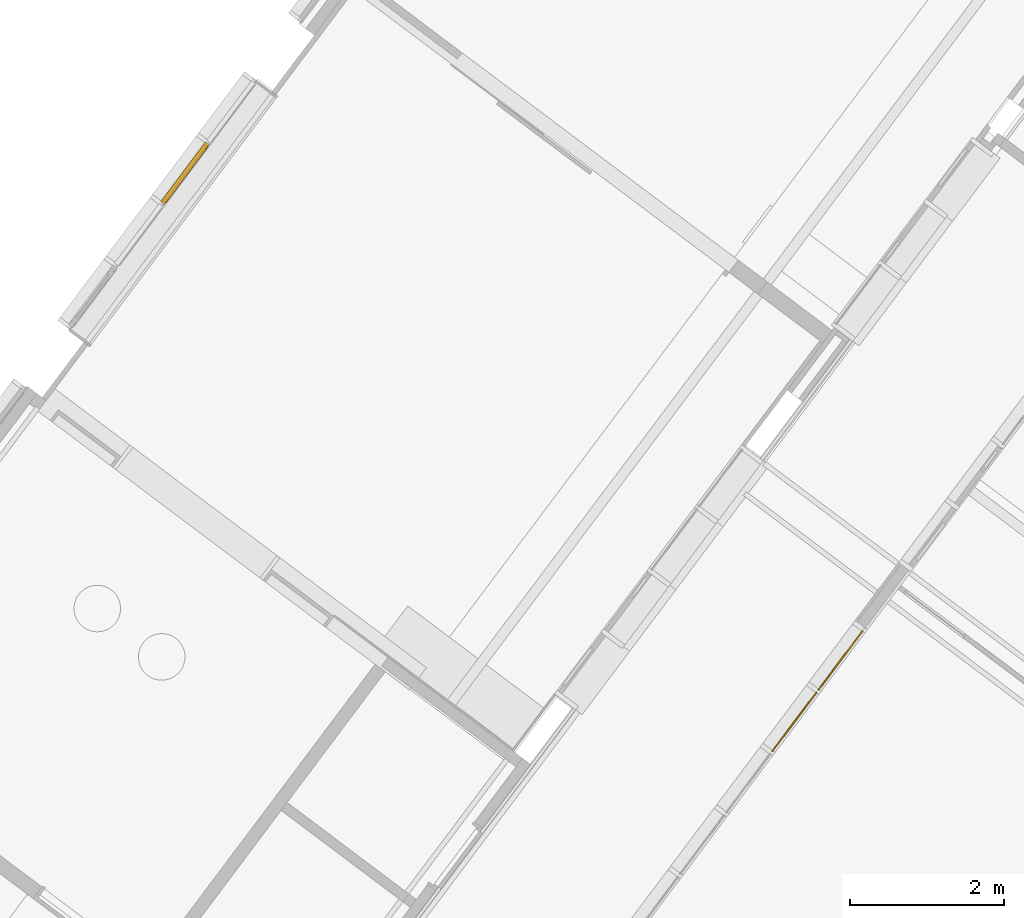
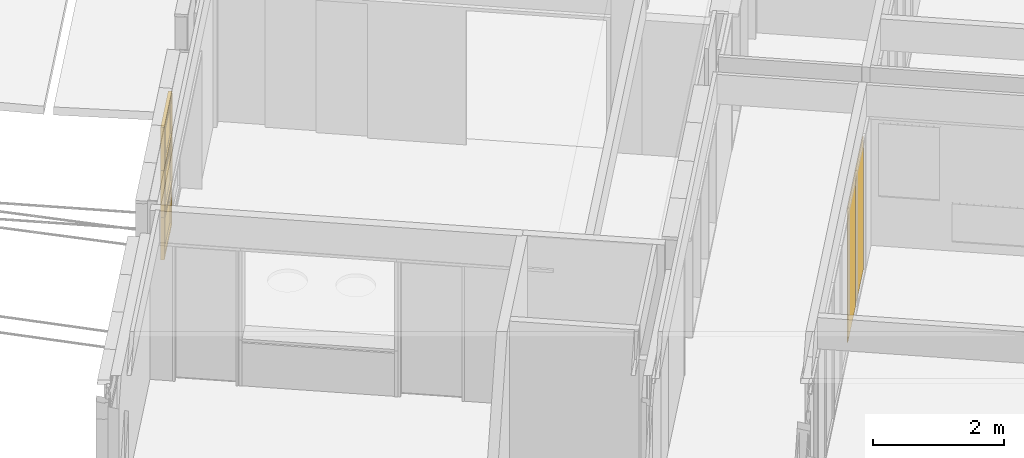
# One storey, part 168 of 243: 5 windows, 2 elements without a shape of their own.
"""IFC2X3 building model written with IfcOpenShell, lengths in metres."""

import ifcopenshell
import ifcopenshell.guid

model = None  # the IFC model being written
_history = None  # IfcOwnerHistory: only IFC2X3 demands one
_inside = {}  # id of a spatial element -> (the spatial element, [elements in it])
_under = {}  # id of a project, library or spatial element -> (it, [spatial elements below it])
_declared = {}  # id of a project -> (the project, [libraries it declares])
_typed = {}  # id of a type object -> (the type object, [elements of that type])
_made_of = {}  # id of a material, layer set ... -> (it, [elements and type objects made of it])


def new_model(schema):
    """Start an empty IFC model of exactly this schema.

    Asked for "IFC4X3", IfcOpenShell would pick the latest addendum, in which some entities
    have other attributes; the version numbers below select the first issue.
    IFC2X3 requires an IfcOwnerHistory on every rooted entity: one is made here for all.
    """
    global model, _history
    if schema == "IFC4X3":
        model = ifcopenshell.file(schema_version=(4, 3, 0, 0))
    else:
        model = ifcopenshell.file(schema=schema)
    _inside.clear()
    _under.clear()
    _declared.clear()
    _typed.clear()
    _made_of.clear()
    _history = None
    if model.schema == "IFC2X3":
        org = make("IfcOrganization", Name="unknown")
        user = make(
            "IfcPersonAndOrganization",
            ThePerson=make("IfcPerson", FamilyName="unknown"),
            TheOrganization=org,
        )
        app = make(
            "IfcApplication",
            ApplicationDeveloper=org,
            Version="unknown",
            ApplicationFullName="unknown",
            ApplicationIdentifier="unknown",
        )
        _history = make(
            "IfcOwnerHistory",
            OwningUser=user,
            OwningApplication=app,
            ChangeAction="ADDED",
            CreationDate=0,
        )
    return model


def make(cls, **values):
    """One entity of the class cls with the attributes given. An attribute that is None is left unset."""
    return model.create_entity(
        cls, **{name: value for name, value in values.items() if value is not None}
    )


def entity(cls, *values):
    """Any entity or typed value of the class cls, its attributes in the order of the schema. None: left unset."""
    e = model.create_entity(cls)
    for i, value in enumerate(values):
        if value is not None:
            e[i] = value
    return e


def rooted(cls, **values):
    """An entity with a GlobalId (a new one), such as an element, a storey or a relation."""
    return make(cls, GlobalId=ifcopenshell.guid.new(), OwnerHistory=_history, **values)


def si_unit(unit_type, name, prefix=None):
    """IfcSIUnit, for example si_unit("LENGTHUNIT", "METRE", prefix="MILLI")."""
    return make("IfcSIUnit", UnitType=unit_type, Prefix=prefix, Name=name)


def converted_unit(unit_type, name, factor, base, dimensions=None, offset=None):
    """IfcConversionBasedUnit, such as the inch: factor (a typed value) times the base unit."""
    return make(
        "IfcConversionBasedUnit"
        if offset is None
        else "IfcConversionBasedUnitWithOffset",
        ConversionOffset=offset,
        Dimensions=None
        if dimensions is None
        else entity("IfcDimensionalExponents", *dimensions),
        UnitType=unit_type,
        Name=name,
        ConversionFactor=make(
            "IfcMeasureWithUnit", ValueComponent=factor, UnitComponent=base
        ),
    )


def derived_unit(unit_type, elements):
    """IfcDerivedUnit: a product of units, each with its exponent."""
    return make(
        "IfcDerivedUnit",
        Elements=[
            make("IfcDerivedUnitElement", Unit=unit, Exponent=power)
            for unit, power in elements
        ],
        UnitType=unit_type,
    )


def assignment(units):
    """IfcUnitAssignment: the units of a project."""
    return None if units is None else make("IfcUnitAssignment", Units=units)


def point(xyz):
    """IfcCartesianPoint."""
    return None if xyz is None else make("IfcCartesianPoint", Coordinates=xyz)


def direction(xyz):
    """IfcDirection."""
    return None if xyz is None else make("IfcDirection", DirectionRatios=xyz)


def frame(location, z_axis=None, x_axis=None):
    """IfcAxis2Placement3D, a coordinate frame: its origin and axes. An axis left out is left unset."""
    return make(
        "IfcAxis2Placement3D",
        Location=point(location),
        Axis=direction(z_axis),
        RefDirection=direction(x_axis),
    )


def frame_2d(location, x_axis=None):
    """IfcAxis2Placement2D, a coordinate frame in the plane: its origin and x axis."""
    return make(
        "IfcAxis2Placement2D", Location=point(location), RefDirection=direction(x_axis)
    )


def origin():
    """The frame at (0, 0, 0) with its axes left unset."""
    return frame((0.0, 0.0, 0.0))


def origin_2d_with_axis():
    """The frame at (0, 0) in the plane with the x axis (1, 0) written out."""
    return frame_2d((0.0, 0.0), x_axis=(1.0, 0.0))


def place(relative_to, where):
    """IfcLocalPlacement: puts the frame where relative to a parent placement (None: the world)."""
    return make(
        "IfcLocalPlacement", PlacementRelTo=relative_to, RelativePlacement=where
    )


def context(
    kind, dimensions, precision=None, world=None, true_north=None, identifier=None
):
    """IfcGeometricRepresentationContext, for example the 3D "Model" context."""
    return make(
        "IfcGeometricRepresentationContext",
        ContextIdentifier=identifier,
        ContextType=kind,
        CoordinateSpaceDimension=dimensions,
        Precision=precision,
        WorldCoordinateSystem=world,
        TrueNorth=true_north,
    )


def subcontext(parent, identifier, kind, view, scale=None):
    """IfcGeometricRepresentationSubContext, for example "Body" below "Model"."""
    return make(
        "IfcGeometricRepresentationSubContext",
        ContextIdentifier=identifier,
        ContextType=kind,
        ParentContext=parent,
        TargetScale=scale,
        TargetView=view,
    )


def project(units=None, contexts=None):
    """IfcProject with its units and contexts."""
    return rooted(
        "IfcProject",
        Name="project",
        RepresentationContexts=contexts,
        UnitsInContext=assignment(units),
    )


def spatial(cls, under=None, at=None, **own):
    """A site, building, storey or space (cls), placed at a placement, below another one or the project."""
    s = rooted(cls, ObjectPlacement=at, **own)
    if under is not None:
        _under.setdefault(under.id(), (under, []))[1].append(s)
    return s


def profile(cls, at=None, kind="AREA", **sizes):
    """A parametric profile (cls). Its sizes go by their IFC names, for example OverallWidth=200.0."""
    return make(cls, ProfileType=kind, Position=at, **sizes)


def rectangle(**sizes):
    """IfcRectangleProfileDef."""
    return profile("IfcRectangleProfileDef", **sizes)


def extrude(swept, where, along, depth):
    """IfcExtrudedAreaSolid: the profile swept, set in the frame where, extruded along a direction by depth."""
    return make(
        "IfcExtrudedAreaSolid",
        SweptArea=swept,
        Position=where,
        ExtrudedDirection=direction(along),
        Depth=depth,
    )


def faces_of(points, faces, orient=None, outer=None):
    """IfcFace entities. A face is a list of loops; a loop is a list of indices into points, from 0.

    orient and outer hold one flag for each loop. By default every Orientation is true, the
    first loop of a face is its IfcFaceOuterBound and the others are IfcFaceBound.
    """
    made = []
    for i, loops in enumerate(faces):
        bounds = []
        for j, loop in enumerate(loops):
            is_outer = j == 0 if outer is None else outer[i][j]
            bounds.append(
                make(
                    "IfcFaceOuterBound" if is_outer else "IfcFaceBound",
                    Bound=make("IfcPolyLoop", Polygon=[points[k] for k in loop]),
                    Orientation=True if orient is None else orient[i][j],
                )
            )
        made.append(make("IfcFace", Bounds=bounds))
    return made


def faceted_brep(points, faces, orient=None, outer=None, voids=None):
    """IfcFacetedBrep: a solid bounded by flat faces; with voids (closed shells), ...WithVoids."""
    shared = [point(p) for p in points]
    hull = make("IfcClosedShell", CfsFaces=faces_of(shared, faces, orient, outer))
    if voids is None:
        return make("IfcFacetedBrep", Outer=hull)
    return make(
        "IfcFacetedBrepWithVoids",
        Outer=hull,
        Voids=[
            make(cls, CfsFaces=faces_of(shared, fs, o, b)) for cls, fs, o, b in voids
        ],
    )


def shape(context_of_items, identifier, shape_type, items):
    """IfcShapeRepresentation: the items that make up one representation, for example the "Body"."""
    return make(
        "IfcShapeRepresentation",
        ContextOfItems=context_of_items,
        RepresentationIdentifier=identifier,
        RepresentationType=shape_type,
        Items=items,
    )


def source(mapping_origin, context_of_items, identifier, shape_type, items):
    """IfcRepresentationMap: a shape defined once, which mapped items show again and again."""
    return make(
        "IfcRepresentationMap",
        MappingOrigin=mapping_origin,
        MappedRepresentation=shape(context_of_items, identifier, shape_type, items),
    )


def transform(
    local_origin,
    x_axis=None,
    y_axis=None,
    z_axis=None,
    scale=None,
    scale2=None,
    scale3=None,
    uniform=True,
):
    """IfcCartesianTransformationOperator3D, or its non-uniform kind. x_axis, y_axis, z_axis: its Axis1, 2, 3."""
    if uniform:
        return make(
            "IfcCartesianTransformationOperator3D",
            Axis1=direction(x_axis),
            Axis2=direction(y_axis),
            LocalOrigin=point(local_origin),
            Scale=scale,
            Axis3=direction(z_axis),
        )
    return make(
        "IfcCartesianTransformationOperator3DnonUniform",
        Axis1=direction(x_axis),
        Axis2=direction(y_axis),
        LocalOrigin=point(local_origin),
        Scale=scale,
        Axis3=direction(z_axis),
        Scale2=scale2,
        Scale3=scale3,
    )


def mapped(mapping_source, mapping_target):
    """IfcMappedItem: shows the shape of a source again, moved by a transform."""
    return make(
        "IfcMappedItem", MappingSource=mapping_source, MappingTarget=mapping_target
    )


def material(Name=None, Category=None):
    """IfcMaterial."""
    return make("IfcMaterial", Name=Name, Category=Category)


def material_list(materials):
    """IfcMaterialList."""
    return make("IfcMaterialList", Materials=materials)


def made_of(thing, what):
    """Note that an element or type object is made of a material, layer set ...; save() writes the relation."""
    if what is not None:
        _made_of.setdefault(what.id(), (what, []))[1].append(thing)
    return thing


def type_object(cls, material=None, **own):
    """A type object (cls), such as IfcWallType, which elements share."""
    return made_of(rooted(cls, **own), material)


def type_shapes(of_type, sources):
    """Give a type object the sources (RepresentationMaps) that its elements show as mapped items."""
    of_type.RepresentationMaps = sources


def element(
    cls,
    number,
    at=None,
    inside=None,
    cuts=None,
    type_object=None,
    material=None,
    context=None,
    identifier="Body",
    shape_type=None,
    held_by="IfcProductDefinitionShape",
    body=None,
    shapes=None,
    **own,
):
    """One element of the class cls, such as IfcWall. Its Tag is "e" and its number.

    at: its placement. inside: the storey or other place that contains it. cuts: it is an
    opening in that element (IfcRelVoidsElement). A single representation is given by context,
    identifier, shape_type and body (its items); several are given by shapes. held_by: the class
    of the entity that holds the representations. save() writes the other relations.
    """
    e = rooted(cls, Tag="e%d" % number, ObjectPlacement=at, **own)
    if body is not None:
        shapes = [shape(context, identifier, shape_type, body)]
    if shapes is not None:
        e.Representation = make(held_by, Representations=shapes)
    if inside is not None:
        _inside.setdefault(inside.id(), (inside, []))[1].append(e)
    if cuts is not None:
        rooted(
            "IfcRelVoidsElement", RelatingBuildingElement=cuts, RelatedOpeningElement=e
        )
    if type_object is not None:
        _typed.setdefault(type_object.id(), (type_object, []))[1].append(e)
    return made_of(e, material)


def aggregate(whole, parts):
    """IfcRelAggregates: a whole, such as a stair, and the parts it consists of."""
    return rooted("IfcRelAggregates", RelatingObject=whole, RelatedObjects=parts)


def save(model, path):
    """Write the relations noted so far, then the file.

    IfcRelAggregates (storeys below a building ...), IfcRelContainedInSpatialStructure (elements
    in a storey), IfcRelDefinesByType, IfcRelAssociatesMaterial and IfcRelDeclares: one each for
    every whole, place, type object, material and project.
    """
    for whole, parts in _under.values():
        aggregate(whole, parts)
    for where, things in _inside.values():
        rooted(
            "IfcRelContainedInSpatialStructure",
            RelatedElements=things,
            RelatingStructure=where,
        )
    for kind, things in _typed.values():
        rooted("IfcRelDefinesByType", RelatedObjects=things, RelatingType=kind)
    for what, things in _made_of.values():
        rooted("IfcRelAssociatesMaterial", RelatedObjects=things, RelatingMaterial=what)
    for by, libraries in _declared.values():
        rooted("IfcRelDeclares", RelatingContext=by, RelatedDefinitions=libraries)
    model.write(path)


model = new_model("IFC2X3")

# Units and contexts
model_context = context("Model", 3, precision=1e-05, world=origin(), true_north=direction((6.123031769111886e-17, 1.0)))
body_context = subcontext(model_context, "Body", "Model", "MODEL_VIEW")
ifc_project = project(units=[si_unit("LENGTHUNIT", "METRE"), si_unit("AREAUNIT", "SQUARE_METRE"), si_unit("VOLUMEUNIT", "CUBIC_METRE"), converted_unit("PLANEANGLEUNIT", "DEGREE", entity("IfcRatioMeasure", 0.017453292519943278), si_unit("PLANEANGLEUNIT", "RADIAN"), dimensions=[0, 0, 0, 0, 0, 0, 0]), si_unit("MASSUNIT", "GRAM", prefix="KILO"), derived_unit("MASSDENSITYUNIT", [(si_unit("MASSUNIT", "GRAM", prefix="KILO"), 1), (si_unit("LENGTHUNIT", "METRE"), -3)]), derived_unit("IONCONCENTRATIONUNIT", [(si_unit("MASSUNIT", "GRAM", prefix="KILO"), 1), (si_unit("LENGTHUNIT", "METRE"), -3)]), derived_unit("MOMENTOFINERTIAUNIT", [(si_unit("LENGTHUNIT", "METRE"), 4)]), si_unit("TIMEUNIT", "SECOND"), si_unit("FREQUENCYUNIT", "HERTZ"), si_unit("THERMODYNAMICTEMPERATUREUNIT", "DEGREE_CELSIUS"), derived_unit("THERMALTRANSMITTANCEUNIT", [(si_unit("MASSUNIT", "GRAM", prefix="KILO"), 1), (si_unit("THERMODYNAMICTEMPERATUREUNIT", "KELVIN"), -1), (si_unit("TIMEUNIT", "SECOND"), -3)]), derived_unit("THERMALCONDUCTANCEUNIT", [(si_unit("MASSUNIT", "GRAM", prefix="KILO"), 1), (si_unit("THERMODYNAMICTEMPERATUREUNIT", "KELVIN"), -1), (si_unit("TIMEUNIT", "SECOND"), -3), (si_unit("LENGTHUNIT", "METRE"), 1)]), derived_unit("VOLUMETRICFLOWRATEUNIT", [(si_unit("LENGTHUNIT", "METRE"), 3), (si_unit("TIMEUNIT", "SECOND"), -1)]), derived_unit("MASSFLOWRATEUNIT", [(si_unit("MASSUNIT", "GRAM", prefix="KILO"), 1), (si_unit("TIMEUNIT", "SECOND"), -1)]), derived_unit("ROTATIONALFREQUENCYUNIT", [(si_unit("TIMEUNIT", "SECOND"), -1)]), si_unit("ELECTRICCURRENTUNIT", "AMPERE"), si_unit("ELECTRICVOLTAGEUNIT", "VOLT"), si_unit("POWERUNIT", "WATT"), si_unit("FORCEUNIT", "NEWTON", prefix="KILO"), si_unit("ILLUMINANCEUNIT", "LUX"), si_unit("LUMINOUSFLUXUNIT", "LUMEN"), si_unit("LUMINOUSINTENSITYUNIT", "CANDELA"), derived_unit("USERDEFINED", [(si_unit("MASSUNIT", "GRAM", prefix="KILO"), -1), (si_unit("LENGTHUNIT", "METRE"), -2), (si_unit("TIMEUNIT", "SECOND"), 3), (si_unit("LUMINOUSFLUXUNIT", "LUMEN"), 1)]), derived_unit("USERDEFINED", [(si_unit("MASSUNIT", "GRAM", prefix="KILO"), 1), (si_unit("TIMEUNIT", "SECOND"), -3), (si_unit("LENGTHUNIT", "METRE"), 3), (si_unit("ELECTRICCURRENTUNIT", "AMPERE"), -2)]), derived_unit("SOUNDPOWERUNIT", [(si_unit("MASSUNIT", "GRAM", prefix="KILO"), 1), (si_unit("TIMEUNIT", "SECOND"), -3), (si_unit("LENGTHUNIT", "METRE"), 2)]), derived_unit("SOUNDPRESSUREUNIT", [(si_unit("MASSUNIT", "GRAM", prefix="KILO"), 1), (si_unit("LENGTHUNIT", "METRE"), -1), (si_unit("TIMEUNIT", "SECOND"), -2)]), derived_unit("LINEARVELOCITYUNIT", [(si_unit("LENGTHUNIT", "METRE"), 1), (si_unit("TIMEUNIT", "SECOND"), -1)]), si_unit("PRESSUREUNIT", "PASCAL"), derived_unit("USERDEFINED", [(si_unit("MASSUNIT", "GRAM", prefix="KILO"), 1), (si_unit("LENGTHUNIT", "METRE"), -2), (si_unit("TIMEUNIT", "SECOND"), -2)]), derived_unit("LINEARFORCEUNIT", [(si_unit("MASSUNIT", "GRAM", prefix="KILO"), 1), (si_unit("TIMEUNIT", "SECOND"), -2)]), derived_unit("PLANARFORCEUNIT", [(si_unit("MASSUNIT", "GRAM", prefix="KILO"), 1), (si_unit("LENGTHUNIT", "METRE"), -1), (si_unit("TIMEUNIT", "SECOND"), -2)]), derived_unit("SPECIFICHEATCAPACITYUNIT", [(si_unit("THERMODYNAMICTEMPERATUREUNIT", "KELVIN"), -1), (si_unit("LENGTHUNIT", "METRE"), 2), (si_unit("TIMEUNIT", "SECOND"), -2)]), derived_unit("HEATINGVALUEUNIT", [(si_unit("LENGTHUNIT", "METRE"), 2), (si_unit("TIMEUNIT", "SECOND"), -2)]), derived_unit("VAPORPERMEABILITYUNIT", [(si_unit("LENGTHUNIT", "METRE"), -1), (si_unit("TIMEUNIT", "SECOND"), 1)]), derived_unit("DYNAMICVISCOSITYUNIT", [(si_unit("MASSUNIT", "GRAM", prefix="KILO"), 1), (si_unit("TIMEUNIT", "SECOND"), -1), (si_unit("LENGTHUNIT", "METRE"), -1)]), derived_unit("THERMALEXPANSIONCOEFFICIENTUNIT", [(si_unit("THERMODYNAMICTEMPERATUREUNIT", "KELVIN"), -1)]), derived_unit("MODULUSOFELASTICITYUNIT", [(si_unit("MASSUNIT", "GRAM", prefix="KILO"), 1), (si_unit("LENGTHUNIT", "METRE"), -1), (si_unit("TIMEUNIT", "SECOND"), -2)]), derived_unit("ISOTHERMALMOISTURECAPACITYUNIT", [(si_unit("LENGTHUNIT", "METRE"), 3), (si_unit("MASSUNIT", "GRAM", prefix="KILO"), -1)]), derived_unit("MOISTUREDIFFUSIVITYUNIT", [(si_unit("TIMEUNIT", "SECOND"), -1), (si_unit("LENGTHUNIT", "METRE"), 2)])], contexts=[model_context])

# Site, building, storey
site_placement = place(None, frame((0.0, 0.0, 235.0), z_axis=(0.0, 0.0, 1.0), x_axis=(-0.7996477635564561, 0.6004693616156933, 0.0)))
site = spatial("IfcSite", under=ifc_project, at=site_placement, Name="Default", CompositionType="ELEMENT")
building_placement = place(site_placement, origin())
building = spatial("IfcBuilding", under=site, at=building_placement, CompositionType="ELEMENT")
storey_placement = place(building_placement, origin())
storey = spatial("IfcBuildingStorey", under=building, at=storey_placement, Name="P0- Escola", CompositionType="ELEMENT", Elevation=0.0)

# Curtain wall, windows
curtain_wall_type_1 = type_object("IfcCurtainWallType", Name="Muro cortina:MC- INT- a3", PredefinedType="NOTDEFINED")
curtain_wall_1_placement = place(storey_placement, origin())
curtain_wall_1 = element("IfcCurtainWall", 1, at=curtain_wall_1_placement, inside=storey, type_object=curtain_wall_type_1, Name="Muro cortina:MC- INT- a3", ObjectType="Muro cortina:MC- INT- a3")
ifc_material_1 = material(Name="_Vidre")
window_style_1 = type_object("IfcWindowStyle", Name="MC- Fusta- vidre fix:MC- Fusta- vidre fix", ConstructionType="NOTDEFINED", OperationType="NOTDEFINED", ParameterTakesPrecedence=False, Sizeable=False, material=ifc_material_1)
shared_shape_1 = source(origin(), body_context, "Body", "SweptSolid", [
    extrude(rectangle(XDim=0.015999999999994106, YDim=0.9699999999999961, at=origin_2d_with_axis()), frame((0.0, 0.0, 0.0), z_axis=(0.0, 0.0, 1.0), x_axis=(0.0, -1.0, 0.0)), (0.0, 0.0, 1.0), 2.475),
])
type_shapes(window_style_1, [shared_shape_1])
window_1_placement = place(curtain_wall_1_placement, frame((13.279147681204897, -32.97019175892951, 0.045000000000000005), z_axis=(0.0, 0.0, 1.0), x_axis=(0.0, -1.0, 0.0)))
window_1 = element("IfcWindow", 2, at=window_1_placement, type_object=window_style_1, material=ifc_material_1, Name="MC- Fusta- vidre fix:MC- Fusta- vidre fix", ObjectType="MC- Fusta- vidre fix:MC- Fusta- vidre fix", OverallHeight=2.475, OverallWidth=0.9699999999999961, context=body_context, shape_type="MappedRepresentation", body=[
    mapped(shared_shape_1, transform((0.0, 0.0, 0.0), scale=1.0)),
])
window_2_placement = place(curtain_wall_1_placement, frame((13.279147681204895, -31.970191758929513, 0.045000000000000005), z_axis=(0.0, 0.0, 1.0), x_axis=(0.0, -1.0, 0.0)))
window_2 = element("IfcWindow", 3, at=window_2_placement, type_object=window_style_1, material=ifc_material_1, Name="MC- Fusta- vidre fix:MC- Fusta- vidre fix", ObjectType="MC- Fusta- vidre fix:MC- Fusta- vidre fix", OverallHeight=2.475, OverallWidth=0.9699999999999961, context=body_context, shape_type="MappedRepresentation", body=[
    mapped(shared_shape_1, transform((0.0, 0.0, 0.0), scale=1.0)),
])
aggregate(curtain_wall_1, [window_1, window_2])

curtain_wall_type_2 = type_object("IfcCurtainWallType", Name="Muro cortina:MC- EXT- MC2", PredefinedType="NOTDEFINED")
curtain_wall_2_placement = place(storey_placement, origin())
curtain_wall_2 = element("IfcCurtainWall", 4, at=curtain_wall_2_placement, inside=storey, type_object=curtain_wall_type_2, Name="Muro cortina:MC- EXT- MC2", ObjectType="Muro cortina:MC- EXT- MC2")
ifc_material_2 = material(Name="_Alumini- T1- Perfil")
ifc_material_list = material_list([ifc_material_1, ifc_material_2])
window_style_2 = type_object("IfcWindowStyle", Name="MC- Alu- Conjunt vidre fix- 62x60 cm:MC- Alu- Conjunt vidre fix- 62x60 cm", ConstructionType="NOTDEFINED", OperationType="NOTDEFINED", ParameterTakesPrecedence=False, Sizeable=False, material=ifc_material_list)
shared_shape_2 = source(origin(), body_context, "Body", "Brep", [
    faceted_brep([(-0.43619328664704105, -0.007600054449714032, 0.048806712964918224), (0.43619328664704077, -0.007600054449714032, 0.048806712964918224), (0.43619328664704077, -0.03160022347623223, 0.048806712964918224), (-0.43619328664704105, -0.03160022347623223, 0.048806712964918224), (-0.43619328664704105, -0.007600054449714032, 0.7387000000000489), (0.43619328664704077, -0.007600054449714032, 0.7387000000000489), (0.43619328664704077, -0.03160022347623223, 0.7387000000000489), (-0.43619328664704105, -0.03160022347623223, 0.7387000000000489)], [[[0, 1, 2, 3]], [[4, 5, 1, 0]], [[5, 6, 2, 1]], [[6, 7, 3, 2]], [[7, 4, 0, 3]], [[4, 7, 6, 5]]]),
    faceted_brep([(-0.4849999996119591, -0.05999999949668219, 0.7877000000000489), (-0.4849999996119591, 0.0, 0.7877000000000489), (-0.4849999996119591, 0.0, 0.0), (-0.4849999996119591, -0.05999999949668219, 0.0), (-0.422193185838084, 0.0, 0.7248931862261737), (-0.4221931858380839, 0.0, 0.06280681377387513), (0.42219318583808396, 0.0, 0.06280681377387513), (0.42219318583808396, 0.0, 0.7248931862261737), (0.4849999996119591, 0.0, 0.7877000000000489), (0.4849999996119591, 0.0, 0.0), (0.4849999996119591, -0.05999999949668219, 0.0), (0.4849999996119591, -0.05999999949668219, 0.7877000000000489), (0.4221960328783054, -0.05999999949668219, 0.7248960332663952), (0.4221960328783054, -0.05999999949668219, 0.0628039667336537), (-0.4221960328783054, -0.05999999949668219, 0.0628039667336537), (-0.4221960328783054, -0.05999999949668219, 0.7248960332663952), (-0.4221960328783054, -0.03160022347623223, 0.7248960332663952), (-0.4221960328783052, -0.03160022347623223, 0.06280396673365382), (0.4221960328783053, -0.03160022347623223, 0.06280396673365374), (0.42219603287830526, -0.03160022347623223, 0.7248960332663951), (0.43619328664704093, -0.03160022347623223, 0.7388932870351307), (0.43619328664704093, -0.03160022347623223, 0.048806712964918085), (-0.43619328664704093, -0.03160022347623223, 0.04880671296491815), (-0.43619328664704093, -0.03160022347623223, 0.7388932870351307), (-0.43619328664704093, -0.007600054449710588, 0.7388932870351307), (-0.43619328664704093, -0.007600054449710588, 0.04880671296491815), (0.43619328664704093, -0.007600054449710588, 0.048806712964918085), (0.43619328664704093, -0.007600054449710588, 0.7388932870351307), (0.42219318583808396, -0.007600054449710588, 0.7248931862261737), (0.42219318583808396, -0.007600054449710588, 0.06280681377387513), (-0.42219318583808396, -0.007600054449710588, 0.06280681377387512), (-0.42219318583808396, -0.007600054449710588, 0.7248931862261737)], [[[0, 1, 2, 3]], [[4, 5, 6, 7], [8, 9, 2, 1]], [[3, 2, 9, 10]], [[0, 3, 10, 11], [12, 13, 14, 15]], [[16, 15, 14, 17]], [[17, 14, 13, 18]], [[16, 17, 18, 19], [20, 21, 22, 23]], [[24, 23, 22, 25]], [[25, 22, 21, 26]], [[24, 25, 26, 27], [28, 29, 30, 31]], [[4, 31, 30, 5]], [[5, 30, 29, 6]], [[10, 9, 8, 11]], [[18, 13, 12, 19]], [[26, 21, 20, 27]], [[6, 29, 28, 7]], [[11, 8, 1, 0]], [[19, 12, 15, 16]], [[27, 20, 23, 24]], [[7, 28, 31, 4]]], outer=[[True], [False, True], [True], [True, False], [True], [True], [False, True], [True], [True], [True, False], [True], [True], [True], [True], [True], [True], [True], [True], [True], [True]]),
])
type_shapes(window_style_2, [shared_shape_2])
window_3_placement = place(curtain_wall_2_placement, frame((23.945147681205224, -32.91519175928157, 0.03229999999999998), z_axis=(0.0, 0.0, 1.0), x_axis=(0.0, -1.0, 0.0)))
window_3 = element("IfcWindow", 5, at=window_3_placement, type_object=window_style_2, material=ifc_material_list, Name="MC- Alu- Conjunt vidre fix- 62x60 cm:MC- Alu- Conjunt vidre fix- 62x60 cm", ObjectType="MC- Alu- Conjunt vidre fix- 62x60 cm:MC- Alu- Conjunt vidre fix- 62x60 cm", OverallHeight=0.7877000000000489, OverallWidth=0.9699999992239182, context=body_context, shape_type="MappedRepresentation", body=[
    mapped(shared_shape_2, transform((0.0, 0.0, 0.0), scale=1.0)),
])
window_style_3 = type_object("IfcWindowStyle", Name="MC- Alu- Conjunt finestra basculant- 68x68 cm:MC- Alu- Conjunt finestra basculant- 68x68 cm", ConstructionType="NOTDEFINED", OperationType="NOTDEFINED", ParameterTakesPrecedence=False, Sizeable=False, material=ifc_material_list)
shared_shape_3 = source(origin(), body_context, "Body", "Brep", [
    faceted_brep([(-0.43291170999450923, -0.03559830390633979, 0.051999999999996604), (-0.43291170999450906, -0.011598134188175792, 0.051999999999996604), (0.43291170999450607, -0.011598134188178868, 0.051999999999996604), (0.43291170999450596, -0.03559830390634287, 0.051999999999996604), (-0.43291170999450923, -0.03559830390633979, 0.8228027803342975), (-0.4329117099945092, -0.011598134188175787, 0.8228027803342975), (0.43291170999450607, -0.011598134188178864, 0.8228027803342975), (0.43291170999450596, -0.03559830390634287, 0.8228027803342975)], [[[0, 1, 2, 3]], [[4, 5, 1, 0]], [[5, 6, 2, 1]], [[6, 7, 3, 2]], [[7, 4, 0, 3]], [[4, 7, 6, 5]]]),
    faceted_brep([(0.4172108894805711, -0.009998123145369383, 0.8071019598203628), (0.4172108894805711, -0.007998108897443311, 0.8071019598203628), (0.4172108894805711, -0.007998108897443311, 0.06789804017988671), (0.4172108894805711, -0.009998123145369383, 0.06789804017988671), (0.44610892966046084, -0.007998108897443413, 0.8360000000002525), (0.44610892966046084, -0.007998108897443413, 0.03899999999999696), (-0.44610892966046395, -0.007998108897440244, 0.03899999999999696), (-0.44610892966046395, -0.007998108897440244, 0.8360000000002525), (-0.4172108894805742, -0.007998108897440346, 0.8071019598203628), (-0.4172108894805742, -0.007998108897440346, 0.06789804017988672), (-0.4172108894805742, -0.009998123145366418, 0.06789804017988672), (-0.4172108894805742, -0.009998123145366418, 0.8071019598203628), (-0.4329117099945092, -0.00999812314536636, 0.8228027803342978), (-0.4329117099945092, -0.009998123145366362, 0.05219721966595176), (0.43291170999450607, -0.009998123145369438, 0.052197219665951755), (0.43291170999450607, -0.009998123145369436, 0.8228027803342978), (0.4329117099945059, -0.04079986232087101, 0.8228027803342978), (0.4329117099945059, -0.04079986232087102, 0.052197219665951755), (-0.4329117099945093, -0.04079986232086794, 0.05219721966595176), (-0.4329117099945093, -0.04079986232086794, 0.8228027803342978), (-0.41721088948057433, -0.040799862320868, 0.8071019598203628), (-0.41721088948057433, -0.040799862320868, 0.06789804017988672), (0.41721088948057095, -0.04079986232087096, 0.06789804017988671), (0.41721088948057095, -0.04079986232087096, 0.8071019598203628), (0.41721088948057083, -0.06800005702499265, 0.8071019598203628), (0.4172108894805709, -0.06800005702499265, 0.06789804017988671), (-0.4172108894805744, -0.0680000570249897, 0.06789804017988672), (-0.4172108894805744, -0.0680000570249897, 0.8071019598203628), (-0.4636128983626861, -0.06800005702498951, 0.8535039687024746), (-0.4636128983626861, -0.06800005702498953, 0.021496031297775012), (0.4636128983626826, -0.06800005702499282, 0.021496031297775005), (0.4636128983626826, -0.06800005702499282, 0.8535039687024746), (0.4636128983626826, -0.0645000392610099, 0.8535039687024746), (0.4636128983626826, -0.0645000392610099, 0.021496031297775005), (-0.4636128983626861, -0.06450003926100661, 0.021496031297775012), (-0.4636128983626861, -0.06450003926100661, 0.8535039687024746), (-0.44610892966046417, -0.06450003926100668, 0.8360000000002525), (-0.44610892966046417, -0.06450003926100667, 0.03899999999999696), (0.4461089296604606, -0.06450003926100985, 0.038999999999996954), (0.4461089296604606, -0.06450003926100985, 0.8360000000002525)], [[[0, 1, 2, 3]], [[4, 5, 6, 7], [8, 9, 2, 1]], [[3, 2, 9, 10]], [[0, 3, 10, 11], [12, 13, 14, 15]], [[16, 15, 14, 17]], [[17, 14, 13, 18]], [[16, 17, 18, 19], [20, 21, 22, 23]], [[24, 23, 22, 25]], [[25, 22, 21, 26]], [[24, 25, 26, 27], [28, 29, 30, 31]], [[32, 31, 30, 33]], [[33, 30, 29, 34]], [[32, 33, 34, 35], [36, 37, 38, 39]], [[4, 39, 38, 5]], [[5, 38, 37, 6]], [[10, 9, 8, 11]], [[18, 13, 12, 19]], [[26, 21, 20, 27]], [[34, 29, 28, 35]], [[6, 37, 36, 7]], [[11, 8, 1, 0]], [[19, 12, 15, 16]], [[27, 20, 23, 24]], [[35, 28, 31, 32]], [[7, 36, 39, 4]]], outer=[[True], [True, False], [True], [False, True], [True], [True], [True, False], [True], [True], [False, True], [True], [True], [True, False], [True], [True], [True], [True], [True], [True], [True], [True], [True], [True], [True], [True]]),
    faceted_brep([(-0.42219318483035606, 0.0, 0.8121931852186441), (-0.42219318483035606, -0.0040000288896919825, 0.8121931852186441), (-0.422193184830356, -0.0040000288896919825, 0.06280681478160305), (-0.42219318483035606, 0.0, 0.06280681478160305), (-0.4575998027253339, -0.0040000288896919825, 0.847599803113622), (-0.4575998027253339, -0.0040000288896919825, 0.027400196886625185), (0.4575998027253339, -0.0040000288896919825, 0.027400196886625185), (0.4575998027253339, -0.0040000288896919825, 0.847599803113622), (0.422193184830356, -0.0040000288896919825, 0.812193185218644), (0.42219318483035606, -0.0040000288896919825, 0.06280681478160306), (0.42219318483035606, 0.0, 0.06280681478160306), (0.42219318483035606, 0.0, 0.8121931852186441), (0.4849999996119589, 0.0, 0.8750000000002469), (0.48499999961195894, 0.0, 0.0), (-0.4849999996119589, 0.0, 0.0), (-0.48499999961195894, 0.0, 0.8750000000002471), (-0.48499999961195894, -0.05999999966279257, 0.8750000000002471), (-0.48499999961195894, -0.05999999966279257, 0.0), (0.48499999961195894, -0.05999999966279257, 0.0), (0.48499999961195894, -0.05999999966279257, 0.8750000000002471), (0.45759980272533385, -0.05999999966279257, 0.8475998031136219), (0.4575998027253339, -0.05999999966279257, 0.027400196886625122), (-0.45759980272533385, -0.05999999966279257, 0.027400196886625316), (-0.4575998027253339, -0.05999999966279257, 0.847599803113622)], [[[0, 1, 2, 3]], [[4, 5, 6, 7], [8, 9, 2, 1]], [[3, 2, 9, 10]], [[0, 3, 10, 11], [12, 13, 14, 15]], [[16, 15, 14, 17]], [[17, 14, 13, 18]], [[16, 17, 18, 19], [20, 21, 22, 23]], [[4, 23, 22, 5]], [[5, 22, 21, 6]], [[10, 9, 8, 11]], [[18, 13, 12, 19]], [[6, 21, 20, 7]], [[11, 8, 1, 0]], [[19, 12, 15, 16]], [[7, 20, 23, 4]]], outer=[[True], [True, False], [True], [False, True], [True], [True], [True, False], [True], [True], [True], [True], [True], [True], [True], [True]]),
])
type_shapes(window_style_3, [shared_shape_3])
window_4_placement = place(curtain_wall_2_placement, frame((23.945147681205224, -32.91519175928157, 0.8200000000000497), z_axis=(0.0, 0.0, 1.0), x_axis=(0.0, -1.0, 0.0)))
window_4 = element("IfcWindow", 6, at=window_4_placement, type_object=window_style_3, material=ifc_material_list, Name="MC- Alu- Conjunt finestra basculant- 68x68 cm:MC- Alu- Conjunt finestra basculant- 68x68 cm", ObjectType="MC- Alu- Conjunt finestra basculant- 68x68 cm:MC- Alu- Conjunt finestra basculant- 68x68 cm", OverallHeight=0.8750000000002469, OverallWidth=0.9699999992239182, context=body_context, shape_type="MappedRepresentation", body=[
    mapped(shared_shape_3, transform((0.0, 0.0, 0.0), scale=1.0)),
])
window_style_4 = type_object("IfcWindowStyle", Name="MC- Alu- Conjunt finestra basculant- 68x68 cm:MC- Alu- Conjunt finestra basculant- 68x68 cm", ConstructionType="NOTDEFINED", OperationType="NOTDEFINED", ParameterTakesPrecedence=False, Sizeable=False, material=ifc_material_list)
shared_shape_4 = source(origin(), body_context, "Body", "Brep", [
    faceted_brep([(-0.43291170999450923, -0.03559830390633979, 0.051999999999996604), (-0.43291170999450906, -0.011598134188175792, 0.051999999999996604), (0.43291170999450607, -0.011598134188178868, 0.051999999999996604), (0.43291170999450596, -0.03559830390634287, 0.051999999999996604), (-0.43291170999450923, -0.03559830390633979, 0.7565527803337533), (-0.4329117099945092, -0.011598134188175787, 0.7565527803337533), (0.43291170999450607, -0.011598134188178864, 0.7565527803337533), (0.43291170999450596, -0.03559830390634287, 0.7565527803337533)], [[[0, 1, 2, 3]], [[4, 5, 1, 0]], [[5, 6, 2, 1]], [[6, 7, 3, 2]], [[7, 4, 0, 3]], [[4, 7, 6, 5]]]),
    faceted_brep([(0.4172108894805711, -0.009998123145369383, 0.7408519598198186), (0.4172108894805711, -0.007998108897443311, 0.7408519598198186), (0.4172108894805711, -0.007998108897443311, 0.06789804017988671), (0.4172108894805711, -0.009998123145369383, 0.06789804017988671), (0.44610892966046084, -0.007998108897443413, 0.7697499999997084), (0.44610892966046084, -0.007998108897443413, 0.03899999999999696), (-0.44610892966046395, -0.007998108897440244, 0.03899999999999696), (-0.44610892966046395, -0.007998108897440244, 0.7697499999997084), (-0.4172108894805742, -0.007998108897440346, 0.7408519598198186), (-0.4172108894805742, -0.007998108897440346, 0.06789804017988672), (-0.4172108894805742, -0.009998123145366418, 0.06789804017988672), (-0.4172108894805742, -0.009998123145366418, 0.7408519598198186), (-0.4329117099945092, -0.00999812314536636, 0.7565527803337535), (-0.4329117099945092, -0.009998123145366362, 0.05219721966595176), (0.43291170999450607, -0.009998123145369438, 0.052197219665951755), (0.43291170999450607, -0.009998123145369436, 0.7565527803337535), (0.4329117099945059, -0.04079986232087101, 0.7565527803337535), (0.4329117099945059, -0.04079986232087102, 0.052197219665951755), (-0.4329117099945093, -0.04079986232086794, 0.05219721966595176), (-0.4329117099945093, -0.04079986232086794, 0.7565527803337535), (-0.41721088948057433, -0.040799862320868, 0.7408519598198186), (-0.41721088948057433, -0.040799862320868, 0.06789804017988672), (0.41721088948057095, -0.04079986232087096, 0.06789804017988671), (0.41721088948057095, -0.04079986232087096, 0.7408519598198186), (0.41721088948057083, -0.06800005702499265, 0.7408519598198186), (0.4172108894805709, -0.06800005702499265, 0.06789804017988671), (-0.4172108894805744, -0.0680000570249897, 0.06789804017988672), (-0.4172108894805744, -0.0680000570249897, 0.7408519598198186), (-0.4636128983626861, -0.06800005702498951, 0.7872539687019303), (-0.4636128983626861, -0.06800005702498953, 0.021496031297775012), (0.4636128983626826, -0.06800005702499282, 0.021496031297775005), (0.4636128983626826, -0.06800005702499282, 0.7872539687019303), (0.4636128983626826, -0.0645000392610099, 0.7872539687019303), (0.4636128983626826, -0.0645000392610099, 0.021496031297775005), (-0.4636128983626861, -0.06450003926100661, 0.021496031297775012), (-0.4636128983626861, -0.06450003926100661, 0.7872539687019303), (-0.44610892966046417, -0.06450003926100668, 0.7697499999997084), (-0.44610892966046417, -0.06450003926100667, 0.03899999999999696), (0.4461089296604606, -0.06450003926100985, 0.038999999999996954), (0.4461089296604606, -0.06450003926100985, 0.7697499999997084)], [[[0, 1, 2, 3]], [[4, 5, 6, 7], [8, 9, 2, 1]], [[3, 2, 9, 10]], [[0, 3, 10, 11], [12, 13, 14, 15]], [[16, 15, 14, 17]], [[17, 14, 13, 18]], [[16, 17, 18, 19], [20, 21, 22, 23]], [[24, 23, 22, 25]], [[25, 22, 21, 26]], [[24, 25, 26, 27], [28, 29, 30, 31]], [[32, 31, 30, 33]], [[33, 30, 29, 34]], [[32, 33, 34, 35], [36, 37, 38, 39]], [[4, 39, 38, 5]], [[5, 38, 37, 6]], [[10, 9, 8, 11]], [[18, 13, 12, 19]], [[26, 21, 20, 27]], [[34, 29, 28, 35]], [[6, 37, 36, 7]], [[11, 8, 1, 0]], [[19, 12, 15, 16]], [[27, 20, 23, 24]], [[35, 28, 31, 32]], [[7, 36, 39, 4]]], outer=[[True], [True, False], [True], [False, True], [True], [True], [True, False], [True], [True], [False, True], [True], [True], [True, False], [True], [True], [True], [True], [True], [True], [True], [True], [True], [True], [True], [True]]),
    faceted_brep([(-0.42219318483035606, 0.0, 0.7459431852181), (-0.42219318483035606, -0.0040000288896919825, 0.7459431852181), (-0.422193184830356, -0.0040000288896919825, 0.06280681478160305), (-0.42219318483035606, 0.0, 0.06280681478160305), (-0.4575998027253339, -0.0040000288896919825, 0.7813498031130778), (-0.4575998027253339, -0.0040000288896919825, 0.027400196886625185), (0.4575998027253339, -0.0040000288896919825, 0.027400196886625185), (0.4575998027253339, -0.0040000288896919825, 0.7813498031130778), (0.422193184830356, -0.0040000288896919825, 0.7459431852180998), (0.42219318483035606, -0.0040000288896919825, 0.06280681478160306), (0.42219318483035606, 0.0, 0.06280681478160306), (0.42219318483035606, 0.0, 0.7459431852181), (0.48499999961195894, 0.0, 0.8087499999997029), (0.48499999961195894, 0.0, 0.0), (-0.48499999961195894, 0.0, 0.0), (-0.48499999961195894, 0.0, 0.8087499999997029), (-0.48499999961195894, -0.05999999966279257, 0.8087499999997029), (-0.48499999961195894, -0.05999999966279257, 0.0), (0.48499999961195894, -0.05999999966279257, 0.0), (0.48499999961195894, -0.05999999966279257, 0.8087499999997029), (0.4575998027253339, -0.05999999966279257, 0.7813498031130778), (0.4575998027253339, -0.05999999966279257, 0.027400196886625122), (-0.4575998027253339, -0.05999999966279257, 0.02740019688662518), (-0.4575998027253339, -0.05999999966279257, 0.7813498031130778)], [[[0, 1, 2, 3]], [[4, 5, 6, 7], [8, 9, 2, 1]], [[3, 2, 9, 10]], [[0, 3, 10, 11], [12, 13, 14, 15]], [[16, 15, 14, 17]], [[17, 14, 13, 18]], [[16, 17, 18, 19], [20, 21, 22, 23]], [[4, 23, 22, 5]], [[5, 22, 21, 6]], [[10, 9, 8, 11]], [[18, 13, 12, 19]], [[6, 21, 20, 7]], [[11, 8, 1, 0]], [[19, 12, 15, 16]], [[7, 20, 23, 4]]], outer=[[True], [True, False], [True], [False, True], [True], [True], [True, False], [True], [True], [True], [True], [True], [True], [True], [True]]),
])
type_shapes(window_style_4, [shared_shape_4])
window_5_placement = place(curtain_wall_2_placement, frame((23.945147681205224, -32.91519175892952, 1.6950000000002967), z_axis=(0.0, 0.0, 1.0), x_axis=(0.0, -1.0, 0.0)))
window_5 = element("IfcWindow", 7, at=window_5_placement, type_object=window_style_4, material=ifc_material_list, Name="MC- Alu- Conjunt finestra basculant- 68x68 cm:MC- Alu- Conjunt finestra basculant- 68x68 cm", ObjectType="MC- Alu- Conjunt finestra basculant- 68x68 cm:MC- Alu- Conjunt finestra basculant- 68x68 cm", OverallHeight=0.8087499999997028, OverallWidth=0.9699999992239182, context=body_context, shape_type="MappedRepresentation", body=[
    mapped(shared_shape_4, transform((0.0, 0.0, 0.0), scale=1.0)),
])
aggregate(curtain_wall_2, [window_3, window_4, window_5])

save(model, "model.ifc")
